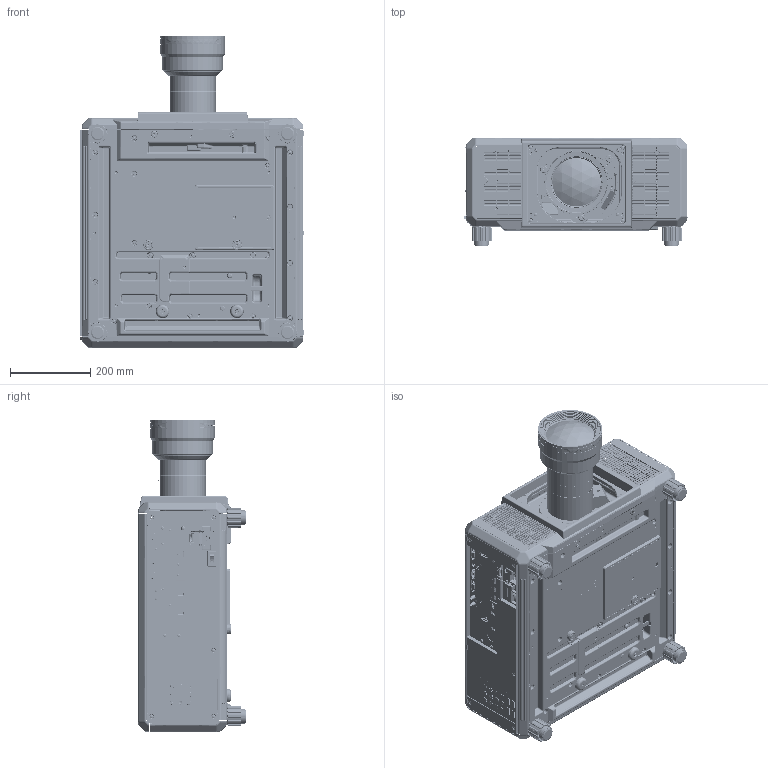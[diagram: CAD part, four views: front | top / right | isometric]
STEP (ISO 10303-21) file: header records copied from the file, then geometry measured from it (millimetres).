
FILE_DESCRIPTION(/* description */ (''),/* implementation_level */ '2;1');
FILE_NAME(/* name */ '01103231_ZA00_RQ25K_D3LEW50_FACE.stp',/* time_stamp */ '2022-12-05T13:31:56+09:00',/* author */ (''),/* organization */ (''),/* preprocessor_version */ 'ST-DEVELOPER v16',/* originating_system */ 'SIEMENS PLM Software NX 10.0',/* authorisation */ '');
FILE_SCHEMA (('AUTOMOTIVE_DESIGN { 1 0 10303 214 3 1 1 1 }'));
Products named in the file (1): 01103231_ZA00
Bounding box: 556.3 x 269 x 773.65 mm (x, y, z)
Surface area: 1950180.8 mm2 (no closed solid volume)
Topology: 0 solids, 2267 shells, 10200 faces, 47219 edges, 38722 vertices
Faces by surface type: plane 5083, cylinder 3977, torus 439, bspline 399, cone 181, sphere 119, extrusion 2
Full cylindrical faces by diameter (mm): 1.02 x2, 1.975 x2, 3 x1, 3.6 x2, 4.5 x1, 5 x2, 5.5 x1, 6 x2, 7 x2, 8 x3, 9.5 x2, 14.9 x1, 23.647 x1, 37.2 x4, 40 x4, 114.5 x3, 120.5 x1, 126.8 x1, 142 x1, 150 x1, 154 x1, 159 x2, 160 x3
Entity records: 585747 total; most frequent: CARTESIAN_POINT 147668, DIRECTION 76394, ORIENTED_EDGE 56849, EDGE_CURVE 46698, VERTEX_POINT 38572, VECTOR 26134, LINE 26132, AXIS2_PLACEMENT_3D 25130
